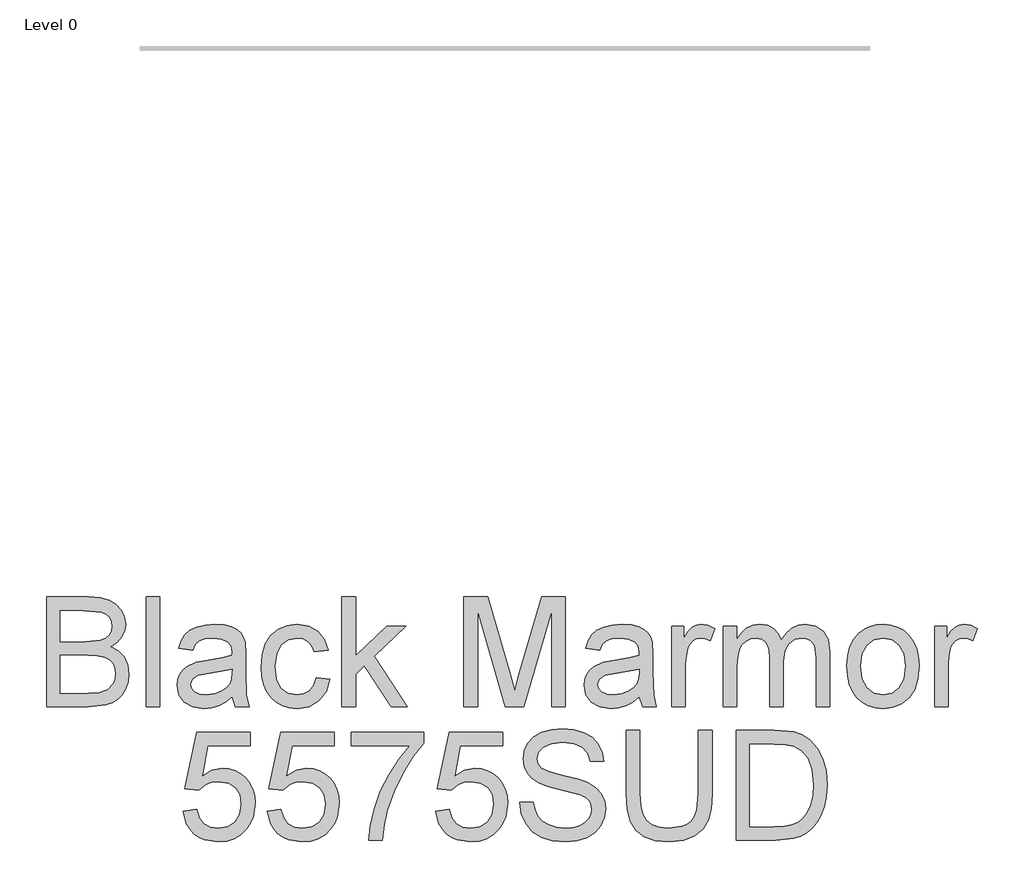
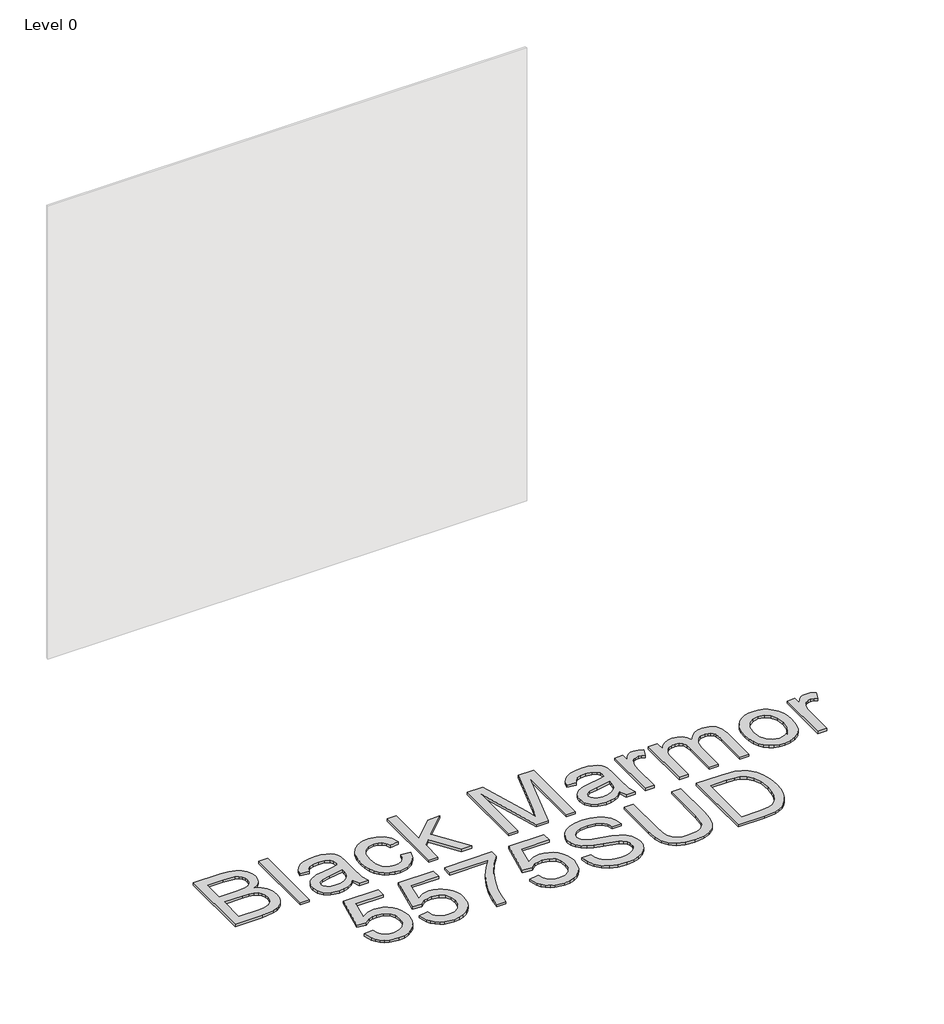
# One storey, part 5 of 12: 1 proxy.
"""IFC4 building model written with IfcOpenShell, lengths in millimetres."""

from ifc_helpers import new_model, si_unit, origin, origin_with_axes, place, context, project, spatial, polyline, outline, extrude, element, save

model = new_model("IFC4")

# Units and contexts
model_context = context("Model", 3, world=origin())
ifc_project = project(units=[si_unit("LENGTHUNIT", "METRE", prefix="MILLI")], contexts=[model_context])

# Site, building, storey
site = spatial("IfcSite", under=ifc_project)
building = spatial("IfcBuilding", under=site)
storey = spatial("IfcBuildingStorey", under=building, Name="Level 0", Elevation=0.0)

# Proxy
placement = place(None, origin())
element("IfcBuildingElementProxy", 1, Name="300mm Arial", ObjectType="300mm Arial", at=placement, inside=storey, context=model_context, shape_type="SweptSolid", body=[
    extrude(outline(polyline([(-5707.931563, -7002.860494), (-5707.931563, -6701.4915635), (-5592.9316513, -6701.4915635), (-5561.3029968, -6703.7080526), (-5536.6089179, -6710.3575196), (-5517.6813892, -6721.6055116), (-5503.3523855, -6737.6175755), (-5494.3300796, -6756.4531336), (-5491.3226443, -6776.1716086), (-5493.851833, -6794.317388), (-5501.4393991, -6811.3779155), (-5514.140525, -6826.3047274), (-5532.0103929, -6838.0493601), (-5510.6640402, -6849.1961846), (-5494.8910996, -6866.1555446), (-5485.1514238, -6887.8054), (-5481.9048652, -6913.0237108), (-5484.1213542, -6934.0389697), (-5490.7708213, -6953.5275184), (-5500.6944381, -6970.1006023), (-5512.7333764, -6982.3694669), (-5527.4762473, -6991.253817), (-5545.5116622, -6997.6733578), (-5593.8145681, -7002.860494), (-5707.931563, -7002.860494)]), holes=[polyline([(-5670.2604467, -6823.9226915), (-5601.4665136, -6823.9226915), (-5561.2937997, -6820.68533), (-5547.2315105, -6815.1027207), (-5537.1239527, -6806.7426024), (-5531.0263086, -6795.7337336), (-5528.9937606, -6782.2048733), (-5530.8883528, -6769.071486), (-5536.5721297, -6757.630356), (-5545.7875736, -6748.7000206), (-5558.2771674, -6743.0990172), (-5606.690438, -6739.1626798), (-5670.2604467, -6739.1626798), (-5670.2604467, -6823.9226915)]), polyline([(-5670.2604467, -6965.1893777), (-5593.0052277, -6965.1893777), (-5565.0461961, -6963.7178497), (-5541.3913838, -6955.5140812), (-5525.7196108, -6938.7754504), (-5521.1118888, -6926.9480443), (-5519.5759815, -6913.3915928), (-5521.3786033, -6897.6462434), (-5526.7864686, -6884.1081859), (-5536.2318388, -6873.5223815), (-5550.1469753, -6866.6337912), (-5569.8562532, -6862.8538037), (-5596.6840477, -6861.5938078), (-5670.2604467, -6861.5938078), (-5670.2604467, -6965.1893777)])]), origin_with_axes(), (0.0, 0.0, 1.0), 10.0),
    extrude(outline(polyline([(-5434.8159698, -7002.860494), (-5434.8159698, -6701.4915635), (-5397.1448535, -6701.4915635), (-5397.1448535, -7002.860494), (-5434.8159698, -7002.860494)])), origin_with_axes(), (0.0, 0.0, 1.0), 10.0),
    extrude(outline(polyline([(-5199.3714929, -6974.6071568), (-5217.3701195, -6990.0398064), (-5235.902175, -7000.1381672), (-5255.3907237, -7005.7115794), (-5276.2588299, -7007.5693835), (-5307.7403316, -7003.0996173), (-5330.9628826, -6989.6903186), (-5345.2826892, -6969.3280501), (-5350.0559581, -6943.9993748), (-5348.2533363, -6928.3827841), (-5342.845471, -6914.2009331), (-5334.5037468, -6902.0608273), (-5323.8995483, -6892.5694718), (-5297.5224092, -6880.2086368), (-5264.9280644, -6874.5432541), (-5226.4108195, -6868.5835657), (-5199.5922221, -6861.5938078), (-5199.3714929, -6853.2060983), (-5201.965061, -6836.3938912), (-5209.7457652, -6825.3942195), (-5227.1465835, -6817.2272392), (-5251.390007, -6814.5049125), (-5273.8308087, -6816.3167313), (-5289.5025817, -6821.7521878), (-5300.1895537, -6831.8045633), (-5307.6759523, -6847.4671392), (-5345.3470686, -6842.7582497), (-5338.8079661, -6822.156858), (-5329.0498962, -6805.9700502), (-5315.1623509, -6793.590821), (-5296.2348222, -6784.4121652), (-5273.0858477, -6778.7283884), (-5246.5339647, -6776.8337961), (-5221.0673336, -6778.5076592), (-5200.8798091, -6783.5292485), (-5185.6586915, -6791.0800264), (-5175.0912812, -6800.3414556), (-5168.0831292, -6811.7917827), (-5163.5397866, -6825.9092543), (-5161.7003766, -6858.8714811), (-5161.7003766, -6905.7396473), (-5159.7873902, -6971.1858542), (-5152.2825975, -7002.860494), (-5189.9537138, -7002.860494), (-5199.3714929, -6974.6071568)]), holes=[polyline([(-5199.3714929, -6899.2649241), (-5260.1455985, -6910.8164188), (-5292.5560023, -6916.9232599), (-5307.2344939, -6926.8560738), (-5312.3848418, -6941.3506244), (-5309.5797416, -6952.5526311), (-5301.164441, -6961.7312869), (-5287.3228809, -6967.8565221), (-5268.2390024, -6969.8982672), (-5248.0054927, -6967.64499), (-5230.1264277, -6960.8851583), (-5215.6318771, -6950.9247533), (-5205.5519104, -6939.069756), (-5201.0821442, -6926.8560738), (-5199.5922221, -6909.933502), (-5199.3714929, -6899.2649241)])]), origin_with_axes(), (0.0, 0.0, 1.0), 10.0),
    extrude(outline(polyline([(-4968.6359055, -6922.8093718), (-4930.9647892, -6927.5182614), (-4941.4678202, -6961.0231141), (-4961.2046892, -6986.3425924), (-4988.3175923, -7002.2626857), (-5020.9487252, -7007.5693835), (-5042.0766481, -7005.7184772), (-5061.0202716, -7000.1657584), (-5077.7795957, -6990.9112269), (-5092.3546205, -6977.9548829), (-5104.1521362, -6961.5404481), (-5112.5789332, -6941.9116444), (-5117.6350114, -6919.0684718), (-5119.3203707, -6893.0109302), (-5116.4416941, -6859.4876834), (-5107.8056643, -6830.4342028), (-5093.2743255, -6806.9725286), (-5072.709722, -6790.2247008), (-5048.1076135, -6780.1815223), (-5021.46376, -6776.8337961), (-4989.6327704, -6781.4323211), (-4964.1845334, -6795.2278959), (-4945.9283894, -6817.4847566), (-4935.6736787, -6847.4671392), (-4973.3447951, -6852.1760288), (-4980.1782031, -6835.7409006), (-4990.8191898, -6823.9594797), (-5004.679144, -6816.8685543), (-5021.1694544, -6814.5049125), (-5045.5140455, -6819.1586197), (-5064.8370473, -6833.1197414), (-5077.4462026, -6857.1424357), (-5081.6492544, -6891.9808606), (-5077.5381731, -6927.2883351), (-5065.2049293, -6951.3938029), (-5046.2314153, -6965.2721511), (-5022.199524, -6969.8982672), (-5002.6925812, -6967.0103936), (-4986.6989115, -6958.3467726), (-4975.0646434, -6943.6866751), (-4968.6359055, -6922.8093718)])), origin_with_axes(), (0.0, 0.0, 1.0), 10.0),
    extrude(outline(polyline([(-4898.0025624, -7002.860494), (-4898.0025624, -6701.4915635), (-4860.3314461, -6701.4915635), (-4860.3314461, -6863.4332178), (-4775.86574, -6781.5426857), (-4723.7736495, -6781.5426857), (-4809.2694252, -6864.4632874), (-4719.06476, -7002.860494), (-4763.0634466, -7002.860494), (-4836.2719637, -6890.6564855), (-4860.3314461, -6913.9802039), (-4860.3314461, -7002.860494), (-4898.0025624, -7002.860494)])), origin_with_axes(), (0.0, 0.0, 1.0), 10.0),
    extrude(outline(polyline([(-4563.6714052, -7002.860494), (-4563.6714052, -6701.4915635), (-4498.8505977, -6701.4915635), (-4437.1935753, -6913.9066275), (-4424.7591638, -6958.2731962), (-4411.2946828, -6910.2278076), (-4350.66773, -6701.4915635), (-4285.8469225, -6701.4915635), (-4285.8469225, -7002.860494), (-4323.5180388, -7002.860494), (-4323.5180388, -6739.1626798), (-4399.2281534, -7002.860494), (-4450.2901743, -7002.860494), (-4526.0002889, -6739.1626798), (-4526.0002889, -7002.860494), (-4563.6714052, -7002.860494)])), origin_with_axes(), (0.0, 0.0, 1.0), 10.0),
    extrude(outline(polyline([(-4083.3646723, -6974.6071568), (-4101.3632989, -6990.0398064), (-4119.8953544, -7000.1381672), (-4139.3839031, -7005.7115794), (-4160.2520093, -7007.5693835), (-4191.7335111, -7003.0996173), (-4214.956062, -6989.6903186), (-4229.2758687, -6969.3280501), (-4234.0491375, -6943.9993748), (-4232.2465158, -6928.3827841), (-4226.8386504, -6914.2009331), (-4218.4969262, -6902.0608273), (-4207.8927277, -6892.5694718), (-4181.5155886, -6880.2086368), (-4148.9212439, -6874.5432541), (-4110.403999, -6868.5835657), (-4083.5854015, -6861.5938078), (-4083.3646723, -6853.2060983), (-4085.9582404, -6836.3938912), (-4093.7389446, -6825.3942195), (-4111.139763, -6817.2272392), (-4135.3831864, -6814.5049125), (-4157.8239881, -6816.3167313), (-4173.4957611, -6821.7521878), (-4184.1827331, -6831.8045633), (-4191.6691317, -6847.4671392), (-4229.340248, -6842.7582497), (-4222.8011455, -6822.156858), (-4213.0430756, -6805.9700502), (-4199.1555303, -6793.590821), (-4180.2280017, -6784.4121652), (-4157.0790271, -6778.7283884), (-4130.5271441, -6776.8337961), (-4105.060513, -6778.5076592), (-4084.8729885, -6783.5292485), (-4069.651871, -6791.0800264), (-4059.0844606, -6800.3414556), (-4052.0763086, -6811.7917827), (-4047.532966, -6825.9092543), (-4045.693556, -6858.8714811), (-4045.693556, -6905.7396473), (-4043.7805696, -6971.1858542), (-4036.2757769, -7002.860494), (-4073.9468932, -7002.860494), (-4083.3646723, -6974.6071568)]), holes=[polyline([(-4083.3646723, -6899.2649241), (-4144.1387779, -6910.8164188), (-4176.5491817, -6916.9232599), (-4191.2276733, -6926.8560738), (-4196.3780212, -6941.3506244), (-4193.572921, -6952.5526311), (-4185.1576204, -6961.7312869), (-4171.3160603, -6967.8565221), (-4152.2321818, -6969.8982672), (-4131.9986721, -6967.64499), (-4114.1196071, -6960.8851583), (-4099.6250565, -6950.9247533), (-4089.5450898, -6939.069756), (-4085.0753236, -6926.8560738), (-4083.5854015, -6909.933502), (-4083.3646723, -6899.2649241)])]), origin_with_axes(), (0.0, 0.0, 1.0), 10.0),
    extrude(outline(polyline([(-3993.8957711, -7002.860494), (-3993.8957711, -6781.5426857), (-3960.9335443, -6781.5426857), (-3960.9335443, -6814.2841833), (-3948.7566503, -6795.3014723), (-3937.5362494, -6784.1178596), (-3926.2790604, -6778.654812), (-3913.9918017, -6776.8337961), (-3895.22982, -6779.7400639), (-3876.1735326, -6788.4588672), (-3888.7550969, -6822.2304343), (-3901.9988487, -6816.4362929), (-3915.2426005, -6814.5049125), (-3926.4905925, -6816.3627165), (-3936.542968, -6821.9361288), (-3944.6639631, -6830.8020848), (-3950.1178137, -6842.5375205), (-3954.6979445, -6863.5803706), (-3956.2246548, -6886.5362071), (-3956.2246548, -7002.860494), (-3993.8957711, -7002.860494)])), origin_with_axes(), (0.0, 0.0, 1.0), 10.0),
    extrude(outline(polyline([(-3852.6290849, -7002.860494), (-3852.6290849, -6781.5426857), (-3814.9579686, -6781.5426857), (-3814.9579686, -6817.9630032), (-3803.6272032, -6801.2335695), (-3789.0590762, -6788.1277734), (-3771.7502283, -6779.6572905), (-3752.1973003, -6776.8337961), (-3731.2464206, -6779.7124728), (-3714.4526076, -6788.3485026), (-3701.9078315, -6802.1716686), (-3693.704063, -6820.6117536), (-3679.9728676, -6801.4588972), (-3664.3102916, -6787.7782855), (-3646.7163352, -6779.5699185), (-3627.1909983, -6776.8337961), (-3598.8732817, -6781.3863358), (-3577.9315991, -6795.0439549), (-3564.99135, -6818.1745354), (-3560.6779336, -6851.1459592), (-3560.6779336, -7002.860494), (-3598.3490499, -7002.860494), (-3598.3490499, -6867.332767), (-3601.8439288, -6835.8788564), (-3606.7551535, -6827.2060383), (-3614.4990695, -6820.3910244), (-3624.4594745, -6815.9764404), (-3636.0201662, -6814.5049125), (-3656.4284199, -6818.2757029), (-3673.0658831, -6829.5880743), (-3684.1299341, -6849.2145787), (-3687.8179511, -6877.9277684), (-3687.8179511, -7002.860494), (-3725.4890674, -7002.860494), (-3725.4890674, -6863.1389122), (-3727.6687682, -6841.8385447), (-3734.2078707, -6826.6450183), (-3745.7133801, -6817.5399389), (-3762.7923017, -6814.5049125), (-3777.3052464, -6816.5282634), (-3790.677757, -6822.5983163), (-3801.7142168, -6832.5679184), (-3809.2190095, -6846.2899168), (-3813.5232289, -6865.3278101), (-3814.9579686, -6891.2450966), (-3814.9579686, -7002.860494), (-3852.6290849, -7002.860494)])), origin_with_axes(), (0.0, 0.0, 1.0), 10.0),
    extrude(outline(polyline([(-3513.5890382, -6892.2015898), (-3511.5518916, -6863.5389839), (-3505.440452, -6838.8403064), (-3495.2547193, -6818.1055575), (-3480.9946934, -6801.334737), (-3466.6380986, -6790.6155754), (-3450.7915816, -6782.9590314), (-3433.4551426, -6778.3651049), (-3414.6287815, -6776.8337961), (-3393.845748, -6778.698498), (-3375.0538759, -6784.2926036), (-3358.253165, -6793.6161129), (-3343.4436154, -6806.669026), (-3331.3563926, -6823.0098843), (-3322.722662, -6842.1972296), (-3317.5424237, -6864.2310619), (-3315.8156776, -6889.1113811), (-3318.8690981, -6927.1687735), (-3328.0293598, -6956.1394806), (-3343.0297482, -6977.8353213), (-3363.6035488, -6994.0681143), (-3388.0401103, -7004.1940662), (-3414.6287815, -7007.5693835), (-3435.7153176, -7005.7115794), (-3454.6819337, -7000.1381672), (-3471.5286298, -6990.8491468), (-3486.255406, -6977.8445183), (-3498.2138701, -6961.3450108), (-3506.7556301, -6941.5713536), (-3511.8806862, -6918.5235466), (-3513.5890382, -6892.2015898)]), holes=[polyline([(-3475.9179219, -6892.1280134), (-3471.5585202, -6926.2214773), (-3458.4803153, -6950.5108861), (-3438.7986286, -6965.0514219), (-3414.6287815, -6969.8982672), (-3390.569299, -6965.0238308), (-3370.9244005, -6950.4005215), (-3357.8461955, -6925.789216), (-3353.4867939, -6890.950791), (-3357.8737867, -6857.8506085), (-3371.0347651, -6833.8922936), (-3390.7072548, -6819.3517577), (-3414.6287815, -6814.5049125), (-3438.7986286, -6819.3333636), (-3458.4803153, -6833.8187172), (-3471.5585202, -6858.0529436), (-3475.9179219, -6892.1280134)])]), origin_with_axes(), (0.0, 0.0, 1.0), 10.0),
    extrude(outline(polyline([(-3273.4356717, -7002.860494), (-3273.4356717, -6781.5426857), (-3240.473445, -6781.5426857), (-3240.473445, -6814.2841833), (-3228.2965509, -6795.3014723), (-3217.0761501, -6784.1178596), (-3205.818961, -6778.654812), (-3193.5317024, -6776.8337961), (-3174.7697206, -6779.7400639), (-3155.7134333, -6788.4588672), (-3168.2949975, -6822.2304343), (-3181.5387493, -6816.4362929), (-3194.7825012, -6814.5049125), (-3206.0304932, -6816.3627165), (-3216.0828687, -6821.9361288), (-3224.2038637, -6830.8020848), (-3229.6577143, -6842.5375205), (-3234.2378452, -6863.5803706), (-3235.7645554, -6886.5362071), (-3235.7645554, -7002.860494), (-3273.4356717, -7002.860494)])), origin_with_axes(), (0.0, 0.0, 1.0), 10.0),
    extrude(outline(polyline([(-5333.5748447, -7288.7338254), (-5295.9037284, -7284.0249358), (-5288.9875469, -7306.6404815), (-5276.9210175, -7322.8364863), (-5259.7593224, -7332.5761621), (-5237.557644, -7335.8227207), (-5210.5551055, -7331.3069693), (-5190.3215958, -7317.7597148), (-5177.6848493, -7296.7444558), (-5173.4726004, -7269.8246908), (-5177.4181348, -7244.4776213), (-5189.254738, -7225.0902402), (-5209.0743805, -7212.7845875), (-5236.9690328, -7208.6827032), (-5255.2435709, -7210.3197781), (-5270.0416242, -7215.2310027), (-5291.1948389, -7232.2271509), (-5328.8659552, -7227.5182614), (-5295.9037284, -7072.1249066), (-5149.9281527, -7072.1249066), (-5149.9281527, -7109.7960229), (-5265.4430992, -7109.7960229), (-5281.5563306, -7192.790201), (-5254.6457627, -7176.4562404), (-5226.4476077, -7171.0115869), (-5208.1017925, -7172.6992456), (-5191.2504978, -7177.7622215), (-5175.8937238, -7186.2005148), (-5162.0314704, -7198.0141254), (-5150.5558514, -7212.4810848), (-5142.3589807, -7228.8794248), (-5137.4408583, -7247.2091452), (-5135.8014841, -7267.470246), (-5141.7059901, -7305.1413624), (-5149.0866227, -7321.9351754), (-5159.4195082, -7337.3678251), (-5175.0728871, -7353.1729553), (-5193.3382282, -7364.4623341), (-5214.2155314, -7371.2359613), (-5237.7047968, -7373.4938371), (-5274.7045285, -7367.6904986), (-5290.3831992, -7360.4363255), (-5304.1810733, -7350.2804832), (-5315.6612908, -7337.7288093), (-5324.3869919, -7323.2871418), (-5333.5748447, -7288.7338254)])), origin_with_axes(), (0.0, 0.0, 1.0), 10.0),
    extrude(outline(polyline([(-5102.8392574, -7288.7338254), (-5065.1681411, -7284.0249358), (-5058.2519595, -7306.6404815), (-5046.1854301, -7322.8364863), (-5029.023735, -7332.5761621), (-5006.8220566, -7335.8227207), (-4979.8195182, -7331.3069693), (-4959.5860084, -7317.7597148), (-4946.9492619, -7296.7444558), (-4942.7370131, -7269.8246908), (-4946.6825475, -7244.4776213), (-4958.5191506, -7225.0902402), (-4978.3387931, -7212.7845875), (-5006.2334454, -7208.6827032), (-5024.5079835, -7210.3197781), (-5039.3060368, -7215.2310027), (-5060.4592515, -7232.2271509), (-5098.1303678, -7227.5182614), (-5065.1681411, -7072.1249066), (-4919.1925654, -7072.1249066), (-4919.1925654, -7109.7960229), (-5034.7075119, -7109.7960229), (-5050.8207432, -7192.790201), (-5023.9101753, -7176.4562404), (-4995.7120204, -7171.0115869), (-4977.3662051, -7172.6992456), (-4960.5149105, -7177.7622215), (-4945.1581364, -7186.2005148), (-4931.295883, -7198.0141254), (-4919.820264, -7212.4810848), (-4911.6233933, -7228.8794248), (-4906.7052709, -7247.2091452), (-4905.0658967, -7267.470246), (-4910.9704028, -7305.1413624), (-4918.3510353, -7321.9351754), (-4928.6839208, -7337.3678251), (-4944.3372997, -7353.1729553), (-4962.6026408, -7364.4623341), (-4983.479944, -7371.2359613), (-5006.9692094, -7373.4938371), (-5043.9689411, -7367.6904986), (-5059.6476119, -7360.4363255), (-5073.4454859, -7350.2804832), (-5084.9257035, -7337.7288093), (-5093.6514045, -7323.2871418), (-5102.8392574, -7288.7338254)])), origin_with_axes(), (0.0, 0.0, 1.0), 10.0),
    extrude(outline(polyline([(-4872.10367, -7109.7960229), (-4872.10367, -7072.1249066), (-4674.3303094, -7072.1249066), (-4674.3303094, -7102.5855358), (-4702.5192673, -7138.2608923), (-4730.4323136, -7183.6299393), (-4755.0528162, -7234.5540045), (-4773.3641425, -7286.8944154), (-4782.3404632, -7326.0554538), (-4787.3436583, -7368.7849475), (-4825.0147746, -7368.7849475), (-4820.9404815, -7329.9550029), (-4810.0419774, -7283.8042066), (-4792.6135679, -7234.8850983), (-4768.9495585, -7187.7502177), (-4741.3216207, -7145.1402856), (-4712.0014257, -7109.7960229), (-4872.10367, -7109.7960229)])), origin_with_axes(), (0.0, 0.0, 1.0), 10.0),
    extrude(outline(polyline([(-4641.3680826, -7288.7338254), (-4603.6969663, -7284.0249358), (-4596.7807848, -7306.6404815), (-4584.7142553, -7322.8364863), (-4567.5525603, -7332.5761621), (-4545.3508819, -7335.8227207), (-4518.3483434, -7331.3069693), (-4498.1148337, -7317.7597148), (-4485.4780872, -7296.7444558), (-4481.2658383, -7269.8246908), (-4485.2113727, -7244.4776213), (-4497.0479759, -7225.0902402), (-4516.8676184, -7212.7845875), (-4544.7622707, -7208.6827032), (-4563.0368088, -7210.3197781), (-4577.834862, -7215.2310027), (-4598.9880768, -7232.2271509), (-4636.6591931, -7227.5182614), (-4603.6969663, -7072.1249066), (-4457.7213906, -7072.1249066), (-4457.7213906, -7109.7960229), (-4573.2363371, -7109.7960229), (-4589.3495685, -7192.790201), (-4562.4390005, -7176.4562404), (-4534.2408456, -7171.0115869), (-4515.8950304, -7172.6992456), (-4499.0437357, -7177.7622215), (-4483.6869617, -7186.2005148), (-4469.8247083, -7198.0141254), (-4458.3490893, -7212.4810848), (-4450.1522186, -7228.8794248), (-4445.2340961, -7247.2091452), (-4443.594722, -7267.470246), (-4449.499228, -7305.1413624), (-4456.8798606, -7321.9351754), (-4467.2127461, -7337.3678251), (-4482.866125, -7353.1729553), (-4501.131466, -7364.4623341), (-4522.0087693, -7371.2359613), (-4545.4980347, -7373.4938371), (-4582.4977663, -7367.6904986), (-4598.1764371, -7360.4363255), (-4611.9743112, -7350.2804832), (-4623.4545287, -7337.7288093), (-4632.1802298, -7323.2871418), (-4641.3680826, -7288.7338254)])), origin_with_axes(), (0.0, 0.0, 1.0), 10.0),
    extrude(outline(polyline([(-4410.6324952, -7265.1893777), (-4372.9613789, -7265.1893777), (-4368.6387655, -7286.0942721), (-4360.8212731, -7302.8972822), (-4348.6259849, -7316.2330045), (-4331.1699843, -7326.7360355), (-4309.8328286, -7333.5510494), (-4285.9940753, -7335.8227207), (-4265.0064074, -7334.1028724), (-4246.6307018, -7328.9433274), (-4231.740678, -7320.7763471), (-4221.2100559, -7310.0341929), (-4214.9468649, -7297.700949), (-4212.8591346, -7284.7606998), (-4214.4226331, -7272.1515444), (-4219.1131285, -7261.2530403), (-4228.6412722, -7251.9548229), (-4244.7177154, -7244.1465276), (-4299.5689209, -7229.7623415), (-4335.5753712, -7220.2433949), (-4358.6139811, -7211.1843008), (-4377.3667658, -7198.510766), (-4390.6565029, -7183.1516928), (-4398.5751628, -7165.4381747), (-4401.2147162, -7145.7013056), (-4397.9497634, -7123.637583), (-4388.1549053, -7103.0637824), (-4372.0876592, -7085.6261758), (-4350.0055424, -7072.9710352), (-4323.4996447, -7065.2731044), (-4294.1610556, -7062.7071275), (-4262.3760512, -7065.3926661), (-4234.5641723, -7073.4492818), (-4211.7187004, -7086.7114277), (-4194.8329169, -7105.013557), (-4184.1459449, -7127.2152354), (-4179.8969079, -7152.1760288), (-4217.5680242, -7152.1760288), (-4224.4842057, -7129.6984389), (-4238.9051799, -7113.4748429), (-4261.4379521, -7103.6523936), (-4292.6895276, -7100.3782438), (-4324.6768671, -7103.6156054), (-4346.6210281, -7113.3276901), (-4359.3129569, -7127.6199056), (-4363.5435998, -7144.5976597), (-4360.5453616, -7159.0738162), (-4351.5506468, -7170.7172813), (-4330.2870675, -7181.1283418), (-4290.0407772, -7191.7601314), (-4248.5069, -7201.8584922), (-4223.3805597, -7210.669266), (-4201.9054482, -7224.3360821), (-4186.923454, -7241.2034716), (-4178.1218772, -7261.0874934), (-4175.1880183, -7283.8042066), (-4178.5633356, -7307.0267576), (-4188.6892875, -7328.869751), (-4205.1520068, -7347.668521), (-4227.5376262, -7361.7584014), (-4254.4573912, -7370.5599781), (-4284.5225473, -7373.4938371), (-4321.4303085, -7370.3300519), (-4351.8081642, -7360.8386964), (-4376.0056024, -7344.9829824), (-4394.372111, -7322.7261217), (-4406.162729, -7295.6132187), (-4410.6324952, -7265.1893777)])), origin_with_axes(), (0.0, 0.0, 1.0), 10.0),
    extrude(outline(polyline([(-3920.9079833, -7067.4160171), (-3883.2368669, -7067.4160171), (-3883.2368669, -7241.277048), (-3885.7936468, -7281.9923878), (-3893.4639864, -7313.3451308), (-3907.7929901, -7337.533372), (-3930.3257623, -7356.7552063), (-3961.1174853, -7369.3091794), (-4000.2233414, -7373.4938371), (-4038.4738719, -7369.8518053), (-4069.0540627, -7358.92571), (-4091.973111, -7341.0926303), (-4107.2402138, -7316.7296452), (-4115.8210613, -7284.052527), (-4118.6813439, -7241.277048), (-4118.6813439, -7067.4160171), (-4081.0102276, -7067.4160171), (-4081.0102276, -7239.9526728), (-4079.1524235, -7273.8070134), (-4073.5790113, -7297.3790523), (-4063.4806505, -7313.7038158), (-4048.0480008, -7325.8163305), (-4027.9248556, -7333.3211232), (-4003.7550086, -7335.8227207), (-3965.4400988, -7330.8747079), (-3951.0972995, -7324.6896919), (-3939.9642706, -7316.0306694), (-3931.6271449, -7303.8537754), (-3925.6720551, -7287.1151446), (-3920.9079833, -7239.9526728), (-3920.9079833, -7067.4160171)])), origin_with_axes(), (0.0, 0.0, 1.0), 10.0),
    extrude(outline(polyline([(-3817.3124134, -7368.7849475), (-3817.3124134, -7067.4160171), (-3713.3489616, -7067.4160171), (-3659.5646139, -7071.7570246), (-3635.5419196, -7080.12634), (-3615.2716217, -7093.3149095), (-3594.4311066, -7116.270746), (-3579.5870681, -7144.8183889), (-3570.7027179, -7178.406015), (-3567.7412679, -7216.4818015), (-3569.7462248, -7248.8278259), (-3575.7610954, -7277.2926953), (-3584.9213571, -7301.5269217), (-3596.3624871, -7321.1810173), (-3609.5326625, -7336.6964405), (-3623.8800603, -7348.5146496), (-3640.3519767, -7357.2794381), (-3659.8957077, -7363.6345996), (-3708.3457664, -7368.7849475), (-3817.3124134, -7368.7849475)]), holes=[polyline([(-3779.6412971, -7331.1138312), (-3712.9810796, -7331.1138312), (-3685.408324, -7329.7526678), (-3664.4942326, -7325.6691777), (-3648.712095, -7319.1024841), (-3636.535201, -7310.2917103), (-3623.447799, -7293.9853408), (-3613.6161527, -7272.8781114), (-3607.4633263, -7246.8780514), (-3605.4123842, -7215.8931903), (-3609.431495, -7174.8375597), (-3621.4888274, -7144.5240833), (-3639.303513, -7123.7019623), (-3660.5946835, -7111.1203981), (-3682.262933, -7106.5954496), (-3714.0111492, -7105.0871334), (-3779.6412971, -7105.0871334), (-3779.6412971, -7331.1138312)])]), origin_with_axes(), (0.0, 0.0, 1.0), 10.0),
])

save(model, "model.ifc")
